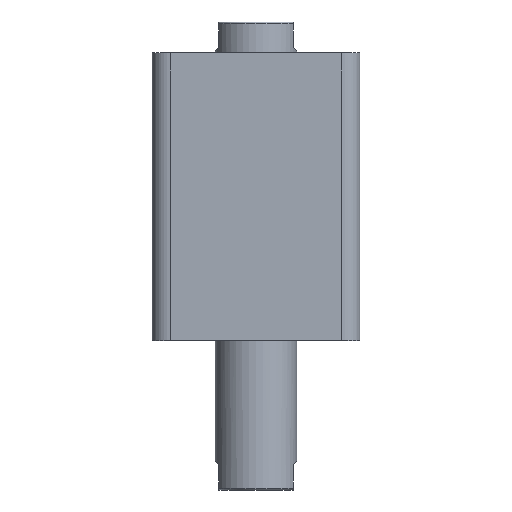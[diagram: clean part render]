
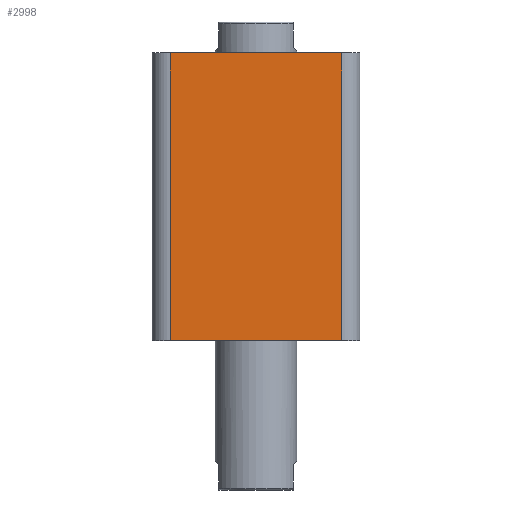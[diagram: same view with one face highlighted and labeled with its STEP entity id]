
A CAD part, front view. The second image highlights one B-rep face of the part: STEP entity #2998.
In plain terms, the highlighted planar face has unit normal (0, -1, 0).
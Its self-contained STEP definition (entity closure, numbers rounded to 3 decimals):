
#9 = DIRECTION ( 'NONE',  ( 0., 0., 1. ) ) ;
#17 = CARTESIAN_POINT ( 'NONE',  ( -57., -57., 158. ) ) ;
#18 = CARTESIAN_POINT ( 'NONE',  ( 47., -57., 158. ) ) ;
#23 = DIRECTION ( 'NONE',  ( 1., 0., 0. ) ) ;
#38 = CARTESIAN_POINT ( 'NONE',  ( -57., -57., 0. ) ) ;
#42 = DIRECTION ( 'NONE',  ( 0., 0., -1. ) ) ;
#50 = CARTESIAN_POINT ( 'NONE',  ( -47., -57., 158. ) ) ;
#54 = DIRECTION ( 'NONE',  ( 1., 0., 0. ) ) ;
#376 = VERTEX_POINT ( 'NONE', #2439 ) ;
#377 = VERTEX_POINT ( 'NONE', #2438 ) ;
#378 = VERTEX_POINT ( 'NONE', #2436 ) ;
#387 = VERTEX_POINT ( 'NONE', #2430 ) ;
#415 = EDGE_LOOP ( 'NONE', ( #1553, #1552, #1551, #1550 ) ) ;
#559 = LINE ( 'NONE', #17, #563 ) ;
#561 = LINE ( 'NONE', #18, #567 ) ;
#563 = VECTOR ( 'NONE', #23, 1000. ) ;
#567 = VECTOR ( 'NONE', #9, 1000. ) ;
#581 = LINE ( 'NONE', #50, #586 ) ;
#586 = VECTOR ( 'NONE', #42, 1000. ) ;
#591 = LINE ( 'NONE', #38, #594 ) ;
#594 = VECTOR ( 'NONE', #54, 1000. ) ;
#804 = FACE_OUTER_BOUND ( 'NONE', #415, .T. ) ;
#1246 = EDGE_CURVE ( 'NONE', #377, #376, #559, .T. ) ;
#1248 = EDGE_CURVE ( 'NONE', #378, #376, #561, .T. ) ;
#1261 = EDGE_CURVE ( 'NONE', #377, #387, #581, .T. ) ;
#1268 = EDGE_CURVE ( 'NONE', #387, #378, #591, .T. ) ;
#1550 = ORIENTED_EDGE ( 'NONE', *, *, #1261, .T. ) ;
#1551 = ORIENTED_EDGE ( 'NONE', *, *, #1246, .F. ) ;
#1552 = ORIENTED_EDGE ( 'NONE', *, *, #1248, .T. ) ;
#1553 = ORIENTED_EDGE ( 'NONE', *, *, #1268, .T. ) ;
#1932 = CARTESIAN_POINT ( 'NONE',  ( -57., -57., 158. ) ) ;
#1938 = PLANE ( 'NONE',  #2170 ) ;
#1939 = DIRECTION ( 'NONE',  ( 0., 1., 0. ) ) ;
#1940 = DIRECTION ( 'NONE',  ( 0., 0., 1. ) ) ;
#2170 = AXIS2_PLACEMENT_3D ( 'NONE', #1932, #1939, #1940 ) ;
#2430 = CARTESIAN_POINT ( 'NONE',  ( -47., -57., 0. ) ) ;
#2436 = CARTESIAN_POINT ( 'NONE',  ( 47., -57., 0. ) ) ;
#2438 = CARTESIAN_POINT ( 'NONE',  ( -47., -57., 158. ) ) ;
#2439 = CARTESIAN_POINT ( 'NONE',  ( 47., -57., 158. ) ) ;
#2998 = ADVANCED_FACE ( 'NONE', ( #804 ), #1938, .F. ) ;
